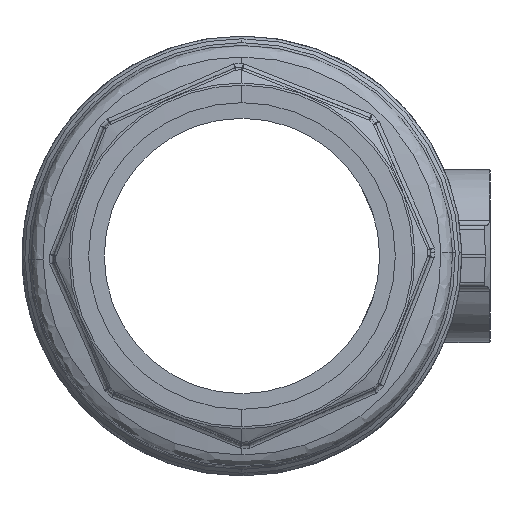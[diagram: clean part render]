
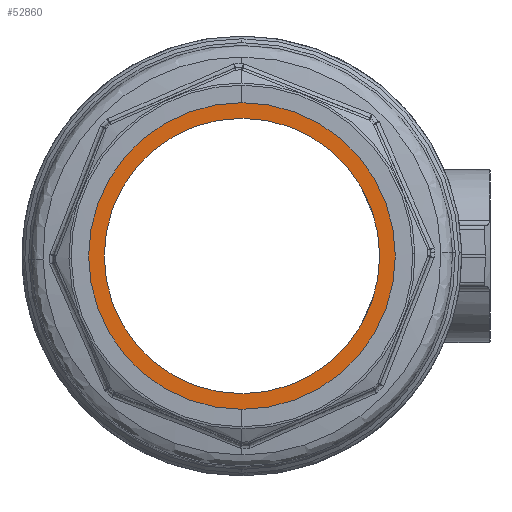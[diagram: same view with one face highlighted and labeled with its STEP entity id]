
A CAD part, left-side view. The second image highlights one B-rep face of the part: STEP entity #52860.
In plain terms, the highlighted planar face has unit normal (-1, 0, 0).
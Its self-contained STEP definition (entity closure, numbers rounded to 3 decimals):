
#302 = DIRECTION ( 'NONE',  ( 0., 0., 1. ) ) ;
#1866 = EDGE_CURVE ( 'NONE', #43451, #46912, #7086, .T. ) ;
#2290 = DIRECTION ( 'NONE',  ( -1., 0., 0. ) ) ;
#2491 = CARTESIAN_POINT ( 'NONE',  ( -101.313, 53.5, 0. ) ) ;
#2900 = ORIENTED_EDGE ( 'NONE', *, *, #17224, .F. ) ;
#5996 = CIRCLE ( 'NONE', #6282, 29.429 ) ;
#6282 = AXIS2_PLACEMENT_3D ( 'NONE', #17862, #49901, #22363 ) ;
#6575 = CARTESIAN_POINT ( 'NONE',  ( -101.313, 20.341, -33.159 ) ) ;
#7086 = CIRCLE ( 'NONE', #19430, 32.766 ) ;
#7352 = AXIS2_PLACEMENT_3D ( 'NONE', #6575, #37898, #11075 ) ;
#10469 = PLANE ( 'NONE',  #7352 ) ;
#11075 = DIRECTION ( 'NONE',  ( 0., 1., 0. ) ) ;
#15351 = VERTEX_POINT ( 'NONE', #52460 ) ;
#17224 = EDGE_CURVE ( 'NONE', #15351, #22064, #31604, .T. ) ;
#17386 = ORIENTED_EDGE ( 'NONE', *, *, #1866, .F. ) ;
#17862 = CARTESIAN_POINT ( 'NONE',  ( -101.313, 53.5, 0. ) ) ;
#19134 = FACE_BOUND ( 'NONE', #40153, .T. ) ;
#19430 = AXIS2_PLACEMENT_3D ( 'NONE', #50722, #50599, #50450 ) ;
#22013 = DIRECTION ( 'NONE',  ( 1., 0., 0. ) ) ;
#22064 = VERTEX_POINT ( 'NONE', #57307 ) ;
#22363 = DIRECTION ( 'NONE',  ( 0., 0., 1. ) ) ;
#29641 = FACE_OUTER_BOUND ( 'NONE', #41966, .T. ) ;
#31604 = CIRCLE ( 'NONE', #49067, 29.429 ) ;
#35006 = EDGE_CURVE ( 'NONE', #46912, #43451, #36123, .T. ) ;
#36123 = CIRCLE ( 'NONE', #50505, 32.766 ) ;
#37898 = DIRECTION ( 'NONE',  ( 1., 0., 0. ) ) ;
#40153 = EDGE_LOOP ( 'NONE', ( #2900, #41498 ) ) ;
#41498 = ORIENTED_EDGE ( 'NONE', *, *, #53215, .F. ) ;
#41966 = EDGE_LOOP ( 'NONE', ( #17386, #46009 ) ) ;
#43451 = VERTEX_POINT ( 'NONE', #49838 ) ;
#46009 = ORIENTED_EDGE ( 'NONE', *, *, #35006, .F. ) ;
#46912 = VERTEX_POINT ( 'NONE', #54544 ) ;
#49067 = AXIS2_PLACEMENT_3D ( 'NONE', #2491, #2290, #302 ) ;
#49531 = CARTESIAN_POINT ( 'NONE',  ( -101.313, 53.5, 0. ) ) ;
#49838 = CARTESIAN_POINT ( 'NONE',  ( -101.313, 53.5, -32.766 ) ) ;
#49901 = DIRECTION ( 'NONE',  ( -1., 0., 0. ) ) ;
#50450 = DIRECTION ( 'NONE',  ( 0., 0., -1. ) ) ;
#50505 = AXIS2_PLACEMENT_3D ( 'NONE', #49531, #22013, #54214 ) ;
#50599 = DIRECTION ( 'NONE',  ( 1., 0., 0. ) ) ;
#50722 = CARTESIAN_POINT ( 'NONE',  ( -101.313, 53.5, 0. ) ) ;
#52460 = CARTESIAN_POINT ( 'NONE',  ( -101.313, 53.5, 29.429 ) ) ;
#52860 = ADVANCED_FACE ( 'NONE', ( #19134, #29641 ), #10469, .F. ) ;
#53215 = EDGE_CURVE ( 'NONE', #22064, #15351, #5996, .T. ) ;
#54214 = DIRECTION ( 'NONE',  ( 0., 0., -1. ) ) ;
#54544 = CARTESIAN_POINT ( 'NONE',  ( -101.313, 53.5, 32.766 ) ) ;
#57307 = CARTESIAN_POINT ( 'NONE',  ( -101.313, 53.5, -29.429 ) ) ;
